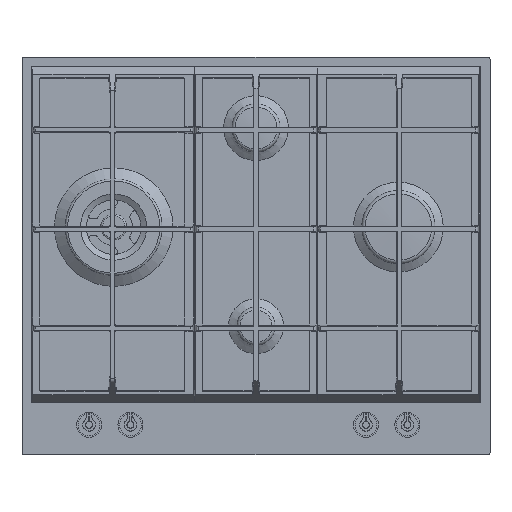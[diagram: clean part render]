
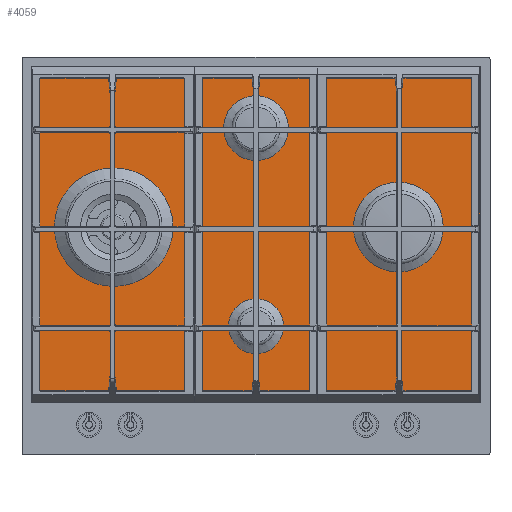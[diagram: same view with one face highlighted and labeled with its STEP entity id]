
A CAD part, top view. The second image highlights one B-rep face of the part: STEP entity #4059.
In plain terms, the highlighted planar face has unit normal (0, 0, 1).
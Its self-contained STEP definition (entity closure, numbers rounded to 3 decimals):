
#1802=FACE_BOUND('',#6760,.T.);
#1803=FACE_BOUND('',#6761,.T.);
#1804=FACE_BOUND('',#6762,.T.);
#1805=FACE_BOUND('',#6763,.T.);
#1806=FACE_BOUND('',#6764,.T.);
#2946=CIRCLE('',#21469,15.);
#2947=CIRCLE('',#21470,15.);
#2948=CIRCLE('',#21471,15.);
#2949=CIRCLE('',#21472,15.);
#4059=ADVANCED_FACE('',(#1802,#1803,#1804,#1805,#1806),#4507,.F.);
#4507=PLANE('',#21473);
#6760=EDGE_LOOP('',(#11909));
#6761=EDGE_LOOP('',(#11910));
#6762=EDGE_LOOP('',(#11911));
#6763=EDGE_LOOP('',(#11912));
#6764=EDGE_LOOP('',(#11913,#11914,#11915,#11916));
#11909=ORIENTED_EDGE('',*,*,#16812,.F.);
#11910=ORIENTED_EDGE('',*,*,#16813,.F.);
#11911=ORIENTED_EDGE('',*,*,#16814,.F.);
#11912=ORIENTED_EDGE('',*,*,#16815,.F.);
#11913=ORIENTED_EDGE('',*,*,#16805,.T.);
#11914=ORIENTED_EDGE('',*,*,#16811,.T.);
#11915=ORIENTED_EDGE('',*,*,#16809,.T.);
#11916=ORIENTED_EDGE('',*,*,#16807,.T.);
#14109=VERTEX_POINT('',#39842);
#14110=VERTEX_POINT('',#39844);
#14111=VERTEX_POINT('',#39848);
#14112=VERTEX_POINT('',#39852);
#14113=VERTEX_POINT('',#39858);
#14114=VERTEX_POINT('',#39860);
#14115=VERTEX_POINT('',#39862);
#14116=VERTEX_POINT('',#39864);
#16805=EDGE_CURVE('',#14110,#14109,#18141,.T.);
#16807=EDGE_CURVE('',#14111,#14110,#18143,.T.);
#16809=EDGE_CURVE('',#14112,#14111,#18145,.T.);
#16811=EDGE_CURVE('',#14109,#14112,#18147,.T.);
#16812=EDGE_CURVE('',#14113,#14113,#2946,.T.);
#16813=EDGE_CURVE('',#14114,#14114,#2947,.T.);
#16814=EDGE_CURVE('',#14115,#14115,#2948,.T.);
#16815=EDGE_CURVE('',#14116,#14116,#2949,.T.);
#18141=LINE('',#39843,#19353);
#18143=LINE('',#39847,#19355);
#18145=LINE('',#39851,#19357);
#18147=LINE('',#39855,#19359);
#19353=VECTOR('',#26611,1.);
#19355=VECTOR('',#26615,1.);
#19357=VECTOR('',#26619,1.);
#19359=VECTOR('',#26623,1.);
#21469=AXIS2_PLACEMENT_3D('',#39857,#26626,#26627);
#21470=AXIS2_PLACEMENT_3D('',#39859,#26628,#26629);
#21471=AXIS2_PLACEMENT_3D('',#39861,#26630,#26631);
#21472=AXIS2_PLACEMENT_3D('',#39863,#26632,#26633);
#21473=AXIS2_PLACEMENT_3D('',#39865,#26634,#26635);
#26611=DIRECTION('',(0.,-1.,0.));
#26615=DIRECTION('',(-1.,0.,0.));
#26619=DIRECTION('',(0.,1.,0.));
#26623=DIRECTION('',(1.,0.,0.));
#26626=DIRECTION('',(0.,0.,1.));
#26627=DIRECTION('',(1.,0.,0.));
#26628=DIRECTION('',(0.,0.,1.));
#26629=DIRECTION('',(1.,0.,0.));
#26630=DIRECTION('',(0.,0.,1.));
#26631=DIRECTION('',(1.,0.,0.));
#26632=DIRECTION('',(0.,0.,1.));
#26633=DIRECTION('',(1.,0.,0.));
#26634=DIRECTION('',(0.,0.,-1.));
#26635=DIRECTION('',(-1.,0.,0.));
#39842=CARTESIAN_POINT('',(-288.,-179.1,3.));
#39843=CARTESIAN_POINT('',(-288.,-179.1,3.));
#39844=CARTESIAN_POINT('',(-288.,251.9,3.));
#39847=CARTESIAN_POINT('',(-288.,251.9,3.));
#39848=CARTESIAN_POINT('',(288.,251.9,3.));
#39851=CARTESIAN_POINT('',(288.,251.9,3.));
#39852=CARTESIAN_POINT('',(288.,-179.1,3.));
#39855=CARTESIAN_POINT('',(288.,-179.1,3.));
#39857=CARTESIAN_POINT('',(-182.5,45.9,3.));
#39858=CARTESIAN_POINT('',(-167.5,45.9,3.));
#39859=CARTESIAN_POINT('',(0.,-81.1,3.));
#39860=CARTESIAN_POINT('',(15.,-81.1,3.));
#39861=CARTESIAN_POINT('',(0.,172.9,3.));
#39862=CARTESIAN_POINT('',(15.,172.9,3.));
#39863=CARTESIAN_POINT('',(182.5,45.9,3.));
#39864=CARTESIAN_POINT('',(197.5,45.9,3.));
#39865=CARTESIAN_POINT('',(0.,8.9,3.));
